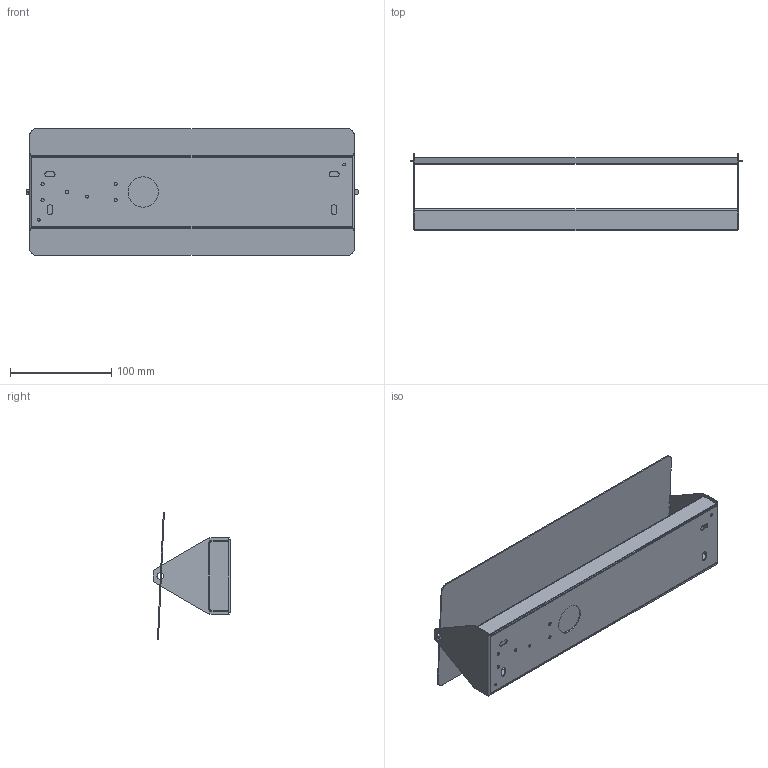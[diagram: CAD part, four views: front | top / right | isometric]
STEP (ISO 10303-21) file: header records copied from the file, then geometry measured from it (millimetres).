
FILE_DESCRIPTION (( 'STEP AP214' ), '1' );
FILE_NAME ('3D_APPLIQUE_A_VOLET_PIVOTANT_DOUBLE.STEP', '2014-04-17T10:12:26', ( '' ), ( '' ), 'SwSTEP 2.0', 'SolidWorks 2012', '' );
FILE_SCHEMA (( 'AUTOMOTIVE_DESIGN' ));
Length unit declared in the file: millimetre
Products named in the file (4): Volee double; Cover staffa double; Staffa double; 3D_APPLIQUE_A_VOLET_PIVOTANT_DOUBLE
Assembly tree (3 placements, depth 2):
  3D_APPLIQUE_A_VOLET_PIVOTANT_DOUBLE
    Staffa double
    Cover staffa double
    Volee double
Bounding box: 327.39 x 76.64 x 124.92 mm (x, y, z)
Volume: 104956.3 mm3; surface area: 213001.3 mm2
Topology: 3 solids, 3 shells, 120 faces, 342 edges, 228 vertices
Faces by surface type: cylinder 56, plane 54, bspline 10
Entity records: 4348 total; most frequent: CARTESIAN_POINT 942, ORIENTED_EDGE 684, DIRECTION 674, EDGE_CURVE 342, AXIS2_PLACEMENT_3D 236, VERTEX_POINT 228, LINE 202, VECTOR 202
